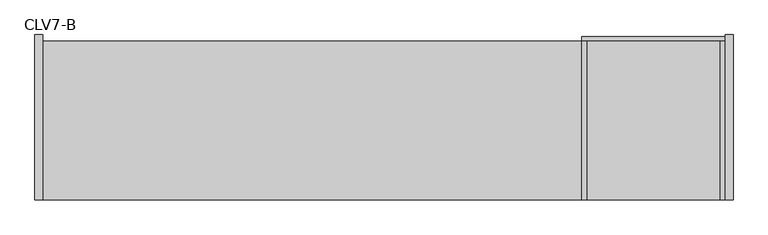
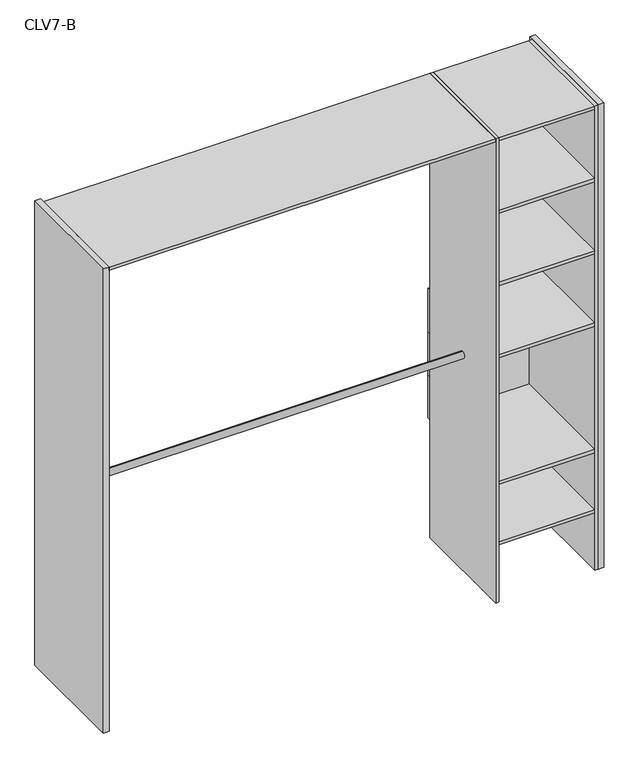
"""IFC4 building model written with IfcOpenShell, lengths in millimetres: furniture geometry, Closet 1estantes-1tubos_2 laterales : CLV7-B."""

from ifc_helpers import new_model, si_unit, point, frame, frame_2d, origin, origin_with_axes, place, context, project, spatial, polyline, circle_curve, trimmed, segment, composite_curve, outline, extrude, source, transform, mapped, element, save


def clv7_b_99e920e4(model_context):
    return source(origin(), model_context, "Body", "SweptSolid", [
        extrude(outline(polyline([(-1919.8394959, -80.0), (-1919.8394959, -600.0), (-1944.8394959, -600.0), (-1944.8394959, -80.0), (-1919.8394959, -80.0)])), origin_with_axes(), (0.0, 0.0, 1.0), 2150.0),
        extrude(outline(polyline([(250.0, -80.0), (250.0, -600.0), (225.0, -600.0), (225.0, -80.0), (250.0, -80.0)])), origin_with_axes(), (0.0, 0.0, 1.0), 2150.0),
        extrude(outline(polyline([(225.0, -100.0), (225.0, -600.0), (210.0, -600.0), (210.0, -100.0), (225.0, -100.0)])), origin_with_axes(), (0.0, 0.0, 1.0), 2150.0),
        extrude(outline(polyline([(-210.0, -100.0), (-210.0, -600.0), (-225.0, -600.0), (-225.0, -100.0), (-210.0, -100.0)])), origin_with_axes(), (0.0, 0.0, 1.0), 2150.0),
        extrude(outline(polyline([(225.0, -100.0), (-225.0, -100.0), (-225.0, -85.0), (225.0, -85.0), (225.0, -100.0)])), frame((0.0, 0.0, 945.0), z_axis=(0.0, 0.0, 1.0), x_axis=(1.0, 0.0, 0.0)), (0.0, 0.0, 1.0), 200.0),
        extrude(outline(polyline([(225.0, -100.0), (-225.0, -100.0), (-225.0, -85.0), (225.0, -85.0), (225.0, -100.0)])), frame((0.0, 0.0, 745.0), z_axis=(0.0, 0.0, 1.0), x_axis=(1.0, 0.0, 0.0)), (0.0, 0.0, 1.0), 200.0),
        extrude(outline(polyline([(225.0, -100.0), (-225.0, -100.0), (-225.0, -85.0), (225.0, -85.0), (225.0, -100.0)])), frame((0.0, 0.0, 545.0), z_axis=(0.0, 0.0, 1.0), x_axis=(1.0, 0.0, 0.0)), (0.0, 0.0, 1.0), 200.0),
        extrude(outline(polyline([(210.0, -100.0), (210.0, -600.0), (-210.0, -600.0), (-210.0, -100.0), (210.0, -100.0)])), frame((0.0, 0.0, 1130.0), z_axis=(0.0, 0.0, 1.0), x_axis=(1.0, 0.0, 0.0)), (0.0, 0.0, 1.0), 15.0),
        extrude(outline(composite_curve([segment(trimmed(circle_curve(frame_2d((-350.0, 1000.0)), 15.0), [point((-350.0, 1015.0))], [point((-350.0, 985.0))], False, "CARTESIAN"), True, "CONTINUOUS"), segment(trimmed(circle_curve(frame_2d((-350.0, 1000.0)), 15.0), [point((-350.0, 985.0))], [point((-350.0, 1015.0))], False, "CARTESIAN"), True, "CONTINUOUS")], self_intersect=False)), frame((-1919.8394959, 0.0, 0.0), z_axis=(1.0, 0.0, 0.0), x_axis=(0.0, 1.0, 0.0)), (0.0, 0.0, 1.0), 1694.8394959),
        extrude(outline(composite_curve([segment(trimmed(circle_curve(frame_2d((-350.0, 2000.0)), 15.0), [point((-350.0, 2015.0))], [point((-350.0, 1985.0))], False, "CARTESIAN"), True, "CONTINUOUS"), segment(trimmed(circle_curve(frame_2d((-350.0, 2000.0)), 15.0), [point((-350.0, 1985.0))], [point((-350.0, 2015.0))], False, "CARTESIAN"), True, "CONTINUOUS")], self_intersect=False)), frame((-1919.8394959, 0.0, 0.0), z_axis=(1.0, 0.0, 0.0), x_axis=(0.0, 1.0, 0.0)), (0.0, 0.0, 1.0), 1694.8394959),
        extrude(outline(polyline([(210.0, -100.0), (210.0, -600.0), (-210.0, -600.0), (-210.0, -100.0), (210.0, -100.0)])), frame((0.0, 0.0, 265.0), z_axis=(0.0, 0.0, 1.0), x_axis=(1.0, 0.0, 0.0)), (0.0, 0.0, 1.0), 15.0),
        extrude(outline(polyline([(210.0, -100.0), (210.0, -600.0), (-210.0, -600.0), (-210.0, -100.0), (210.0, -100.0)])), frame((0.0, 0.0, 545.0), z_axis=(0.0, 0.0, 1.0), x_axis=(1.0, 0.0, 0.0)), (0.0, 0.0, 1.0), 15.0),
        extrude(outline(polyline([(210.0, -100.0), (210.0, -600.0), (-210.0, -600.0), (-210.0, -100.0), (210.0, -100.0)])), frame((0.0, 0.0, 1465.0), z_axis=(0.0, 0.0, 1.0), x_axis=(1.0, 0.0, 0.0)), (0.0, 0.0, 1.0), 15.0),
        extrude(outline(polyline([(210.0, -100.0), (210.0, -600.0), (-210.0, -600.0), (-210.0, -100.0), (210.0, -100.0)])), frame((0.0, 0.0, 1800.0), z_axis=(0.0, 0.0, 1.0), x_axis=(1.0, 0.0, 0.0)), (0.0, 0.0, 1.0), 15.0),
        extrude(outline(polyline([(-210.0, -100.0), (-210.0, -600.0), (-1919.8394959, -600.0), (-1919.8394959, -100.0), (-210.0, -100.0)])), frame((0.0, 0.0, 2135.0), z_axis=(0.0, 0.0, 1.0), x_axis=(1.0, 0.0, 0.0)), (0.0, 0.0, 1.0), 15.0),
        extrude(outline(polyline([(210.0, -100.0), (210.0, -600.0), (-210.0, -600.0), (-210.0, -100.0), (210.0, -100.0)])), frame((0.0, 0.0, 2135.0), z_axis=(0.0, 0.0, 1.0), x_axis=(1.0, 0.0, 0.0)), (0.0, 0.0, 1.0), 15.0),
    ])


if __name__ == "__main__":
    model = new_model("IFC4")
    model_context = context("Model", 3, world=origin())
    ifc_project = project(units=[si_unit("LENGTHUNIT", "METRE", prefix="MILLI")], contexts=[model_context])
    site = spatial("IfcSite", under=ifc_project)
    building = spatial("IfcBuilding", under=site)
    placement = place(None, origin())
    clv7_b_shape = clv7_b_99e920e4(model_context)
    element("IfcFurniture", 1, ObjectType="Closet 1estantes-1tubos_2 laterales : CLV7-B", at=placement, inside=building, context=model_context, shape_type="MappedRepresentation", body=[
        mapped(clv7_b_shape, transform((0.0, 0.0, 0.0), x_axis=(1.0, 0.0, 0.0), y_axis=(0.0, 1.0, 0.0), z_axis=(0.0, 0.0, 1.0))),
    ])
    save(model, "model.ifc")
